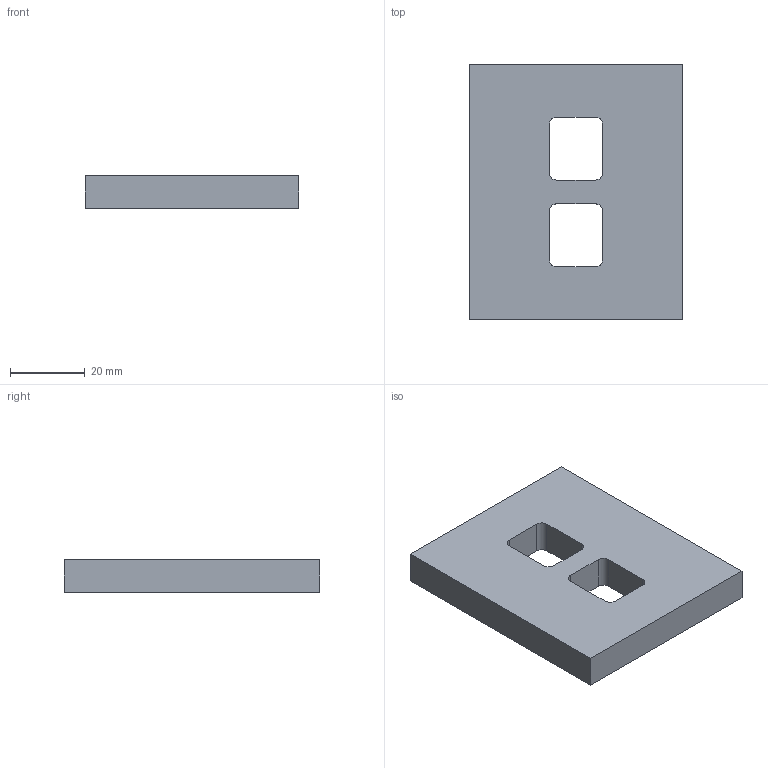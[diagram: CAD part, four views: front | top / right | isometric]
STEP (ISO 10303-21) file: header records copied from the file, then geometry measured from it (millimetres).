
FILE_DESCRIPTION (( 'STEP AP214' ), '1' );
FILE_NAME ('Valve_io.STEP', '2015-04-16T23:52:49', ( '' ), ( '' ), 'SwSTEP 2.0', 'SolidWorks 2012', '' );
FILE_SCHEMA (( 'AUTOMOTIVE_DESIGN' ));
Length unit declared in the file: inch
Products named in the file (1): Valve_io
Bounding box: 57.15 x 68.33 x 8.76 mm (x, y, z)
Volume: 30077.7 mm3; surface area: 10094.9 mm2
Topology: 1 solids, 1 shells, 22 faces, 60 edges, 40 vertices
Faces by surface type: plane 14, cylinder 8
Entity records: 748 total; most frequent: CARTESIAN_POINT 123, DIRECTION 122, ORIENTED_EDGE 120, EDGE_CURVE 60, LINE 44, VECTOR 44, VERTEX_POINT 40, AXIS2_PLACEMENT_3D 39
